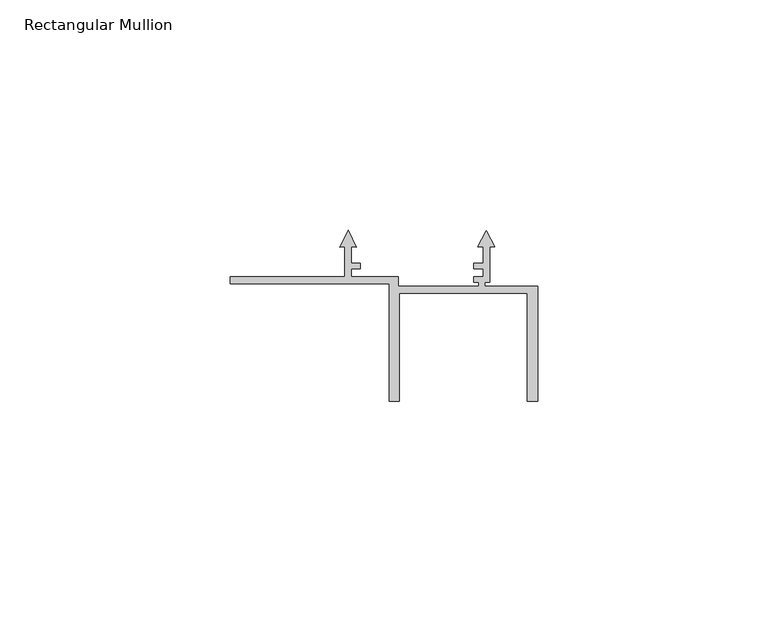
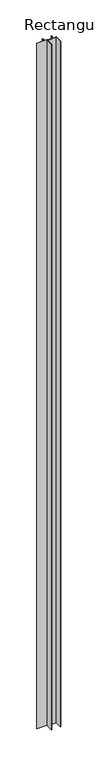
"""IFC4 building model written with IfcOpenShell, lengths in millimetres: member geometry, Rectangular Mullion : Renson_Linarte_LA-E25-01 Zone B."""

from ifc_helpers import new_model, si_unit, frame, origin, place, context, project, spatial, polyline, outline, extrude, source, transform, mapped, element, save


def rectangular_mullion_e1b6cc7b(model_context):
    return source(origin(), model_context, "Body", "SweptSolid", [
        extrude(outline(polyline([(-66.6, -21.6000494), (-66.6, -20.1000494), (-41.8, -20.1000494), (-41.8, -13.5071867), (-42.9255299, -13.6056578), (-41.0999986, -10.0228474), (-39.2744672, -13.6056581), (-40.3999998, -13.5071867), (-40.3999998, -17.099221), (-38.4077357, -17.099221), (-38.4077357, -18.3000494), (-40.3999995, -18.3000494), (-40.3999995, -20.1000494), (-30.1732051, -20.1000494), (-30.1732051, -22.1000494), (-12.8, -22.1000494), (-12.8, -21.3015754), (-13.7880766, -21.3015754), (-13.7880766, -20.1000494), (-11.8091794, -20.1000494), (-11.8091794, -18.3000494), (-13.7875618, -18.3000494), (-13.7875618, -17.0979618), (-11.7999987, -17.0979618), (-11.7999987, -13.5038712), (-12.9157351, -13.6014855), (-11.0999986, -10.037898), (-9.284262, -13.6014855), (-10.3999985, -13.5038712), (-10.3999985, -21.3015754), (-11.4, -21.3015754), (-11.4, -22.1000494), (0.0, -22.1000494), (0.0, -47.1000494), (-2.2, -47.1000494), (-2.2, -23.6000494), (-30.0, -23.6000494), (-30.0, -47.1000494), (-32.2, -47.1000494), (-32.2, -21.6000494), (-66.6, -21.6000494)])), frame((0.0, 0.0, -2475.0), z_axis=(0.0, 0.0, 1.0), x_axis=(1.0, 0.0, 0.0)), (0.0, 0.0, 1.0), 2475.0),
    ])


if __name__ == "__main__":
    model = new_model("IFC4")
    model_context = context("Model", 3, world=origin())
    ifc_project = project(units=[si_unit("LENGTHUNIT", "METRE", prefix="MILLI")], contexts=[model_context])
    site = spatial("IfcSite", under=ifc_project)
    building = spatial("IfcBuilding", under=site)
    placement = place(None, origin())
    rectangular_mullion_shape = rectangular_mullion_e1b6cc7b(model_context)
    element("IfcMember", 1, ObjectType="Rectangular Mullion : Renson_Linarte_LA-E25-01 Zone B", at=placement, inside=building, context=model_context, shape_type="MappedRepresentation", body=[
        mapped(rectangular_mullion_shape, transform((0.0, 0.0, 0.0), x_axis=(1.0, 0.0, 0.0), y_axis=(0.0, 1.0, 0.0), z_axis=(0.0, 0.0, 1.0))),
    ])
    save(model, "model.ifc")
